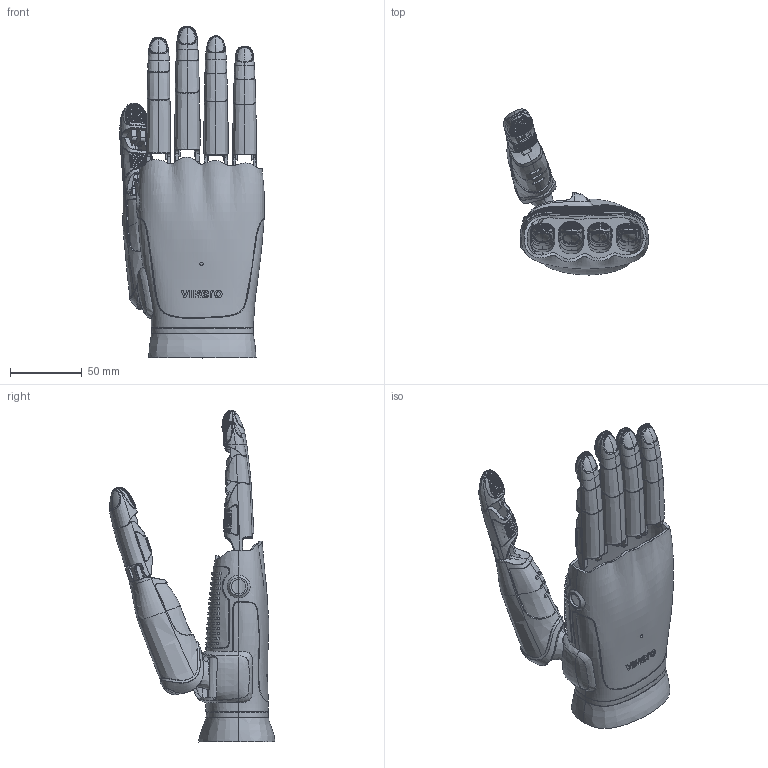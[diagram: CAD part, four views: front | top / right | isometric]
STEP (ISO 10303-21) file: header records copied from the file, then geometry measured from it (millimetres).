
FILE_DESCRIPTION (( 'STEP AP214' ), '1' );
FILE_NAME ('2508220001_R.STEP', '2025-08-22T09:47:43', ( '' ), ( '' ), 'SwSTEP 2.0', 'SolidWorks 2019', '' );
FILE_SCHEMA (( 'AUTOMOTIVE_DESIGN' ));
Length unit declared in the file: millimetre
Products named in the file (1): 2508220001_R
Bounding box: 100.83 x 115.74 x 231.88 mm (x, y, z)
Surface area: 140014.4 mm2 (no closed solid volume)
Topology: 0 solids, 31 shells, 3183 faces, 8478 edges, 5352 vertices
Faces by surface type: bspline 1204, plane 1054, cylinder 744, cone 135, torus 45, sphere 1
Entity records: 395451 total; most frequent: CARTESIAN_POINT 294408, ORIENTED_EDGE 16810, DIRECTION 8430, EDGE_CURVE 8407, VERTEX_POINT 5352, B_SPLINE_CURVE_WITH_KNOTS 4737, EDGE_LOOP 3330, UNCERTAINTY_MEASURE_WITH_UNIT 3214
